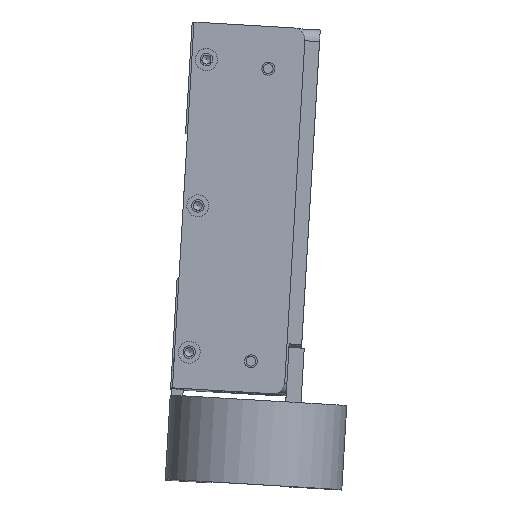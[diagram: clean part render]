
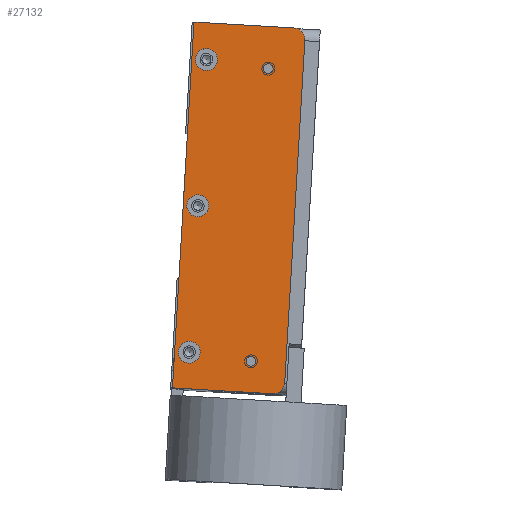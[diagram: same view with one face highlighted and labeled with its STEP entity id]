
A CAD part, top view. The second image highlights one B-rep face of the part: STEP entity #27132.
In plain terms, the highlighted planar face has unit normal (0, 0, 1) as drawn and (0, -1, 0) by its records, which use the part's own axes.
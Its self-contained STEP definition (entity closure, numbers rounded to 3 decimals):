
#756=PLANE($,#29367);
#1720=FACE_BOUND($,#4598,.T.);
#1721=FACE_BOUND($,#4599,.T.);
#1722=FACE_BOUND($,#4600,.T.);
#1723=FACE_BOUND($,#4601,.T.);
#1724=FACE_BOUND($,#4602,.T.);
#1725=FACE_BOUND($,#4603,.T.);
#4598=EDGE_LOOP($,(#21359));
#4599=EDGE_LOOP($,(#21360));
#4600=EDGE_LOOP($,(#21361));
#4601=EDGE_LOOP($,(#21362));
#4602=EDGE_LOOP($,(#21363));
#4603=EDGE_LOOP($,(#21364,#21365,#21366,#21367,#21368,#21369));
#6672=LINE($,#42455,#9171);
#6675=LINE($,#42471,#9174);
#6676=LINE($,#42473,#9175);
#6677=LINE($,#42475,#9176);
#9171=VECTOR($,#34163,93.65);
#9174=VECTOR($,#34178,27.325);
#9175=VECTOR($,#34179,100.);
#9176=VECTOR($,#34180,27.325);
#11552=CIRCLE($,#29364,3.175);
#11554=CIRCLE($,#29368,3.);
#11555=CIRCLE($,#29369,3.);
#11556=CIRCLE($,#29370,3.);
#11557=CIRCLE($,#29371,1.321);
#11558=CIRCLE($,#29372,1.321);
#11559=CIRCLE($,#29373,3.175);
#13061=VERTEX_POINT($,#42445);
#13062=VERTEX_POINT($,#42446);
#13065=VERTEX_POINT($,#42454);
#13067=VERTEX_POINT($,#42460);
#13068=VERTEX_POINT($,#42462);
#13069=VERTEX_POINT($,#42464);
#13070=VERTEX_POINT($,#42466);
#13071=VERTEX_POINT($,#42468);
#13072=VERTEX_POINT($,#42470);
#13073=VERTEX_POINT($,#42472);
#13074=VERTEX_POINT($,#42474);
#16134=EDGE_CURVE($,#13061,#13062,#11552,.T.);
#16138=EDGE_CURVE($,#13062,#13065,#6672,.T.);
#16141=EDGE_CURVE($,#13067,#13067,#11554,.T.);
#16142=EDGE_CURVE($,#13068,#13068,#11555,.T.);
#16143=EDGE_CURVE($,#13069,#13069,#11556,.T.);
#16144=EDGE_CURVE($,#13070,#13070,#11557,.T.);
#16145=EDGE_CURVE($,#13071,#13071,#11558,.T.);
#16146=EDGE_CURVE($,#13061,#13072,#6675,.T.);
#16147=EDGE_CURVE($,#13072,#13073,#6676,.T.);
#16148=EDGE_CURVE($,#13073,#13074,#6677,.T.);
#16149=EDGE_CURVE($,#13065,#13074,#11559,.T.);
#21359=ORIENTED_EDGE($,*,*,#16141,.T.);
#21360=ORIENTED_EDGE($,*,*,#16142,.T.);
#21361=ORIENTED_EDGE($,*,*,#16143,.T.);
#21362=ORIENTED_EDGE($,*,*,#16144,.T.);
#21363=ORIENTED_EDGE($,*,*,#16145,.T.);
#21364=ORIENTED_EDGE($,*,*,#16134,.F.);
#21365=ORIENTED_EDGE($,*,*,#16146,.T.);
#21366=ORIENTED_EDGE($,*,*,#16147,.T.);
#21367=ORIENTED_EDGE($,*,*,#16148,.T.);
#21368=ORIENTED_EDGE($,*,*,#16149,.F.);
#21369=ORIENTED_EDGE($,*,*,#16138,.F.);
#27132=ADVANCED_FACE($,(#1720,#1721,#1722,#1723,#1724,#1725),#756,.T.);
#29364=AXIS2_PLACEMENT_3D($,#42447,#34155,#34156);
#29367=AXIS2_PLACEMENT_3D($,#42459,#34166,#34167);
#29368=AXIS2_PLACEMENT_3D($,#42461,#34168,#34169);
#29369=AXIS2_PLACEMENT_3D($,#42463,#34170,#34171);
#29370=AXIS2_PLACEMENT_3D($,#42465,#34172,#34173);
#29371=AXIS2_PLACEMENT_3D($,#42467,#34174,#34175);
#29372=AXIS2_PLACEMENT_3D($,#42469,#34176,#34177);
#29373=AXIS2_PLACEMENT_3D($,#42476,#34181,#34182);
#34155=DIRECTION('center_axis',(0.,1.,0.));
#34156=DIRECTION('ref_axis',(0.707,0.,0.707));
#34163=DIRECTION($,(0.,0.,-1.));
#34166=DIRECTION('center_axis',(0.,-1.,0.));
#34167=DIRECTION('ref_axis',(0.,0.,-1.));
#34168=DIRECTION('center_axis',(0.,1.,0.));
#34169=DIRECTION('ref_axis',(1.,0.,0.));
#34170=DIRECTION('center_axis',(0.,1.,0.));
#34171=DIRECTION('ref_axis',(1.,0.,0.));
#34172=DIRECTION('center_axis',(0.,1.,0.));
#34173=DIRECTION('ref_axis',(1.,0.,0.));
#34174=DIRECTION('center_axis',(0.,1.,0.));
#34175=DIRECTION('ref_axis',(1.,0.,0.));
#34176=DIRECTION('center_axis',(0.,1.,0.));
#34177=DIRECTION('ref_axis',(1.,0.,0.));
#34178=DIRECTION($,(-1.,0.,0.));
#34179=DIRECTION($,(0.,0.,-1.));
#34180=DIRECTION($,(1.,0.,0.));
#34181=DIRECTION('center_axis',(0.,1.,0.));
#34182=DIRECTION('ref_axis',(0.707,0.,-0.707));
#42445=CARTESIAN_POINT('',(12.075,-2.5,50.));
#42446=CARTESIAN_POINT('',(15.25,-2.5,46.825));
#42447=CARTESIAN_POINT('Origin',(12.075,-2.5,46.825));
#42454=CARTESIAN_POINT('',(15.25,-2.5,-46.825));
#42455=CARTESIAN_POINT($,(15.25,-2.5,0.));
#42459=CARTESIAN_POINT('Origin',(15.25,-2.5,0.));
#42460=CARTESIAN_POINT('',(-8.25,-2.5,0.));
#42461=CARTESIAN_POINT('Origin',(-11.25,-2.5,0.));
#42462=CARTESIAN_POINT('',(-8.25,-2.5,40.));
#42463=CARTESIAN_POINT('Origin',(-11.25,-2.5,40.));
#42464=CARTESIAN_POINT('',(-8.25,-2.5,-40.));
#42465=CARTESIAN_POINT('Origin',(-11.25,-2.5,-40.));
#42466=CARTESIAN_POINT('',(7.071,-2.5,38.5));
#42467=CARTESIAN_POINT('Origin',(5.75,-2.5,38.5));
#42468=CARTESIAN_POINT('',(7.037,-2.5,-41.5));
#42469=CARTESIAN_POINT('Origin',(5.716,-2.5,-41.5));
#42470=CARTESIAN_POINT('',(-15.25,-2.5,50.));
#42471=CARTESIAN_POINT($,(15.25,-2.5,50.));
#42472=CARTESIAN_POINT('',(-15.25,-2.5,-50.));
#42473=CARTESIAN_POINT($,(-15.25,-2.5,0.));
#42474=CARTESIAN_POINT('',(12.075,-2.5,-50.));
#42475=CARTESIAN_POINT($,(15.25,-2.5,-50.));
#42476=CARTESIAN_POINT('Origin',(12.075,-2.5,-46.825));
